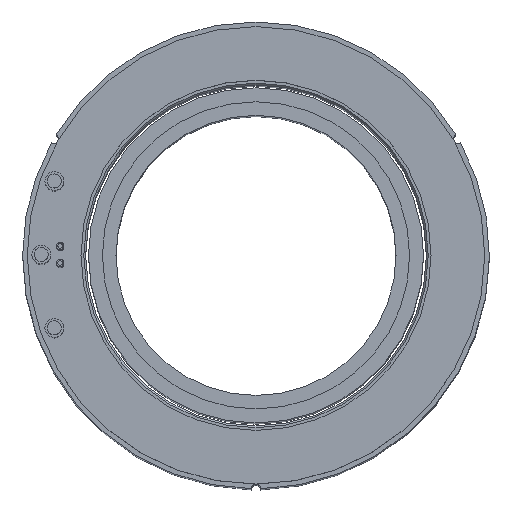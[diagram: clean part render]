
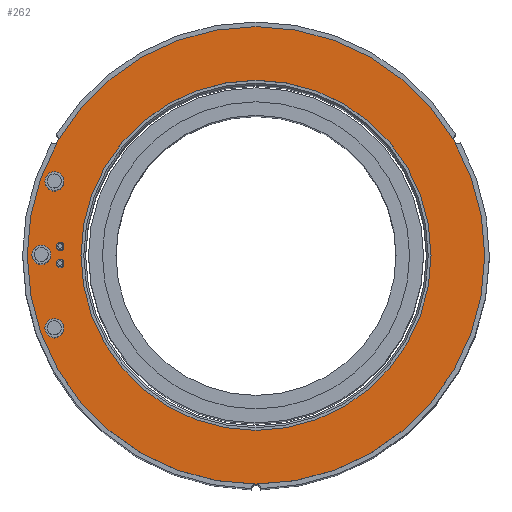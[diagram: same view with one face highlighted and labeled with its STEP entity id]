
A CAD part, top view. The second image highlights one B-rep face of the part: STEP entity #262.
In plain terms, the highlighted planar face has unit normal (0, 0, 1).
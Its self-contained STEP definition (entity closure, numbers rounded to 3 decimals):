
#4 = CARTESIAN_POINT ( 'NONE',  ( -20.98, 0.916, 81. ) ) ;
#5 = PLANE ( 'NONE',  #200 ) ;
#8 = EDGE_CURVE ( 'NONE', #2097, #510, #1329, .T. ) ;
#39 = ORIENTED_EDGE ( 'NONE', *, *, #816, .F. ) ;
#49 = EDGE_LOOP ( 'NONE', ( #363, #719 ) ) ;
#56 = DIRECTION ( 'NONE',  ( 0., 0., 1. ) ) ;
#64 = DIRECTION ( 'NONE',  ( 0., 0., 1. ) ) ;
#65 = ORIENTED_EDGE ( 'NONE', *, *, #8, .F. ) ;
#91 = CARTESIAN_POINT ( 'NONE',  ( 18.75, 0., 81. ) ) ;
#92 = AXIS2_PLACEMENT_3D ( 'NONE', #1311, #1145, #1803 ) ;
#99 = VERTEX_POINT ( 'NONE', #1786 ) ;
#104 = CARTESIAN_POINT ( 'NONE',  ( -24., 0., 81. ) ) ;
#140 = CARTESIAN_POINT ( 'NONE',  ( 24.5, 0., 81. ) ) ;
#141 = ORIENTED_EDGE ( 'NONE', *, *, #1646, .F. ) ;
#155 = FACE_BOUND ( 'NONE', #1528, .T. ) ;
#160 = CIRCLE ( 'NONE', #975, 1. ) ;
#164 = CIRCLE ( 'NONE', #92, 1. ) ;
#200 = AXIS2_PLACEMENT_3D ( 'NONE', #1665, #810, #361 ) ;
#209 = VERTEX_POINT ( 'NONE', #1813 ) ;
#211 = EDGE_CURVE ( 'NONE', #509, #1922, #1921, .T. ) ;
#262 = ADVANCED_FACE ( 'NONE', ( #1988, #1961, #515, #1165, #155, #1998, #1483 ), #5, .T. ) ;
#269 = DIRECTION ( 'NONE',  ( 0., 0., 1. ) ) ;
#295 = DIRECTION ( 'NONE',  ( 1., 0., 0. ) ) ;
#303 = AXIS2_PLACEMENT_3D ( 'NONE', #904, #918, #465 ) ;
#318 = ORIENTED_EDGE ( 'NONE', *, *, #211, .F. ) ;
#319 = CARTESIAN_POINT ( 'NONE',  ( -21.38, -0.916, 81. ) ) ;
#322 = CARTESIAN_POINT ( 'NONE',  ( 0., 0., 81. ) ) ;
#331 = AXIS2_PLACEMENT_3D ( 'NONE', #642, #1986, #1298 ) ;
#361 = DIRECTION ( 'NONE',  ( 1., 0., 0. ) ) ;
#363 = ORIENTED_EDGE ( 'NONE', *, *, #1437, .F. ) ;
#366 = CIRCLE ( 'NONE', #1085, 18.75 ) ;
#367 = ORIENTED_EDGE ( 'NONE', *, *, #1597, .T. ) ;
#375 = DIRECTION ( 'NONE',  ( 1., 0., 0. ) ) ;
#383 = CIRCLE ( 'NONE', #554, 0.4 ) ;
#384 = CARTESIAN_POINT ( 'NONE',  ( -21.613, -7.866, 81. ) ) ;
#390 = DIRECTION ( 'NONE',  ( 1., 0., 0. ) ) ;
#434 = CIRCLE ( 'NONE', #303, 24.5 ) ;
#465 = DIRECTION ( 'NONE',  ( 1., 0., 0. ) ) ;
#478 = DIRECTION ( 'NONE',  ( 1., 0., 0. ) ) ;
#509 = VERTEX_POINT ( 'NONE', #91 ) ;
#510 = VERTEX_POINT ( 'NONE', #1455 ) ;
#515 = FACE_BOUND ( 'NONE', #1973, .T. ) ;
#552 = VERTEX_POINT ( 'NONE', #104 ) ;
#554 = AXIS2_PLACEMENT_3D ( 'NONE', #4, #1173, #2135 ) ;
#575 = DIRECTION ( 'NONE',  ( 1., 0., 0. ) ) ;
#627 = CIRCLE ( 'NONE', #889, 1. ) ;
#638 = CARTESIAN_POINT ( 'NONE',  ( 0., 0., 81. ) ) ;
#642 = CARTESIAN_POINT ( 'NONE',  ( -20.98, -0.916, 81. ) ) ;
#650 = ORIENTED_EDGE ( 'NONE', *, *, #1313, .F. ) ;
#662 = CARTESIAN_POINT ( 'NONE',  ( -22.613, -7.866, 81. ) ) ;
#680 = EDGE_CURVE ( 'NONE', #99, #1418, #383, .T. ) ;
#719 = ORIENTED_EDGE ( 'NONE', *, *, #1038, .F. ) ;
#720 = VERTEX_POINT ( 'NONE', #1512 ) ;
#739 = CIRCLE ( 'NONE', #1840, 1. ) ;
#777 = AXIS2_PLACEMENT_3D ( 'NONE', #1862, #64, #390 ) ;
#780 = ORIENTED_EDGE ( 'NONE', *, *, #1821, .F. ) ;
#795 = EDGE_CURVE ( 'NONE', #1418, #99, #1859, .T. ) ;
#800 = EDGE_LOOP ( 'NONE', ( #2132, #2083 ) ) ;
#810 = DIRECTION ( 'NONE',  ( 0., 0., 1. ) ) ;
#816 = EDGE_CURVE ( 'NONE', #1478, #209, #627, .T. ) ;
#831 = CARTESIAN_POINT ( 'NONE',  ( -21.613, 7.866, 81. ) ) ;
#835 = EDGE_LOOP ( 'NONE', ( #650, #318 ) ) ;
#883 = CARTESIAN_POINT ( 'NONE',  ( -18.75, 0., 81. ) ) ;
#889 = AXIS2_PLACEMENT_3D ( 'NONE', #384, #56, #575 ) ;
#893 = ORIENTED_EDGE ( 'NONE', *, *, #1709, .T. ) ;
#896 = DIRECTION ( 'NONE',  ( 1., 0., 0. ) ) ;
#904 = CARTESIAN_POINT ( 'NONE',  ( 0., 0., 81. ) ) ;
#907 = AXIS2_PLACEMENT_3D ( 'NONE', #638, #1787, #295 ) ;
#918 = DIRECTION ( 'NONE',  ( 0., 0., 1. ) ) ;
#972 = CIRCLE ( 'NONE', #1805, 0.4 ) ;
#975 = AXIS2_PLACEMENT_3D ( 'NONE', #831, #1192, #1999 ) ;
#981 = AXIS2_PLACEMENT_3D ( 'NONE', #322, #998, #1337 ) ;
#986 = CARTESIAN_POINT ( 'NONE',  ( -24.5, 0., 81. ) ) ;
#998 = DIRECTION ( 'NONE',  ( 0., 0., 1. ) ) ;
#1000 = CARTESIAN_POINT ( 'NONE',  ( -20.58, -0.916, 81. ) ) ;
#1005 = DIRECTION ( 'NONE',  ( 1., 0., 0. ) ) ;
#1038 = EDGE_CURVE ( 'NONE', #1835, #1468, #972, .T. ) ;
#1056 = CARTESIAN_POINT ( 'NONE',  ( -20.613, 7.866, 81. ) ) ;
#1066 = CARTESIAN_POINT ( 'NONE',  ( -20.98, -0.916, 81. ) ) ;
#1085 = AXIS2_PLACEMENT_3D ( 'NONE', #2087, #269, #1582 ) ;
#1145 = DIRECTION ( 'NONE',  ( 0., 0., 1. ) ) ;
#1165 = FACE_BOUND ( 'NONE', #800, .T. ) ;
#1173 = DIRECTION ( 'NONE',  ( 0., 0., 1. ) ) ;
#1190 = CIRCLE ( 'NONE', #331, 0.4 ) ;
#1192 = DIRECTION ( 'NONE',  ( 0., 0., 1. ) ) ;
#1199 = DIRECTION ( 'NONE',  ( 0., 0., 1. ) ) ;
#1201 = CARTESIAN_POINT ( 'NONE',  ( -23., 0., 81. ) ) ;
#1229 = CARTESIAN_POINT ( 'NONE',  ( -20.98, 0.916, 81. ) ) ;
#1252 = EDGE_LOOP ( 'NONE', ( #1530, #2002 ) ) ;
#1298 = DIRECTION ( 'NONE',  ( 1., 0., 0. ) ) ;
#1310 = AXIS2_PLACEMENT_3D ( 'NONE', #1229, #1199, #1005 ) ;
#1311 = CARTESIAN_POINT ( 'NONE',  ( -23., 0., 81. ) ) ;
#1313 = EDGE_CURVE ( 'NONE', #1922, #509, #366, .T. ) ;
#1326 = AXIS2_PLACEMENT_3D ( 'NONE', #1201, #1831, #375 ) ;
#1329 = CIRCLE ( 'NONE', #777, 1. ) ;
#1337 = DIRECTION ( 'NONE',  ( 1., 0., 0. ) ) ;
#1418 = VERTEX_POINT ( 'NONE', #1799 ) ;
#1425 = VERTEX_POINT ( 'NONE', #986 ) ;
#1434 = CIRCLE ( 'NONE', #1326, 1. ) ;
#1437 = EDGE_CURVE ( 'NONE', #1468, #1835, #1190, .T. ) ;
#1455 = CARTESIAN_POINT ( 'NONE',  ( -22.613, 7.866, 81. ) ) ;
#1468 = VERTEX_POINT ( 'NONE', #319 ) ;
#1478 = VERTEX_POINT ( 'NONE', #662 ) ;
#1483 = FACE_BOUND ( 'NONE', #835, .T. ) ;
#1512 = CARTESIAN_POINT ( 'NONE',  ( -22., 0., 81. ) ) ;
#1528 = EDGE_LOOP ( 'NONE', ( #780, #65 ) ) ;
#1530 = ORIENTED_EDGE ( 'NONE', *, *, #680, .F. ) ;
#1569 = EDGE_LOOP ( 'NONE', ( #893, #367 ) ) ;
#1582 = DIRECTION ( 'NONE',  ( 1., 0., 0. ) ) ;
#1597 = EDGE_CURVE ( 'NONE', #1724, #1425, #434, .T. ) ;
#1646 = EDGE_CURVE ( 'NONE', #209, #1478, #739, .T. ) ;
#1665 = CARTESIAN_POINT ( 'NONE',  ( 0., 0., 81. ) ) ;
#1709 = EDGE_CURVE ( 'NONE', #1425, #1724, #1779, .T. ) ;
#1724 = VERTEX_POINT ( 'NONE', #140 ) ;
#1726 = DIRECTION ( 'NONE',  ( 0., 0., 1. ) ) ;
#1779 = CIRCLE ( 'NONE', #907, 24.5 ) ;
#1786 = CARTESIAN_POINT ( 'NONE',  ( -21.38, 0.916, 81. ) ) ;
#1787 = DIRECTION ( 'NONE',  ( 0., 0., 1. ) ) ;
#1799 = CARTESIAN_POINT ( 'NONE',  ( -20.58, 0.916, 81. ) ) ;
#1803 = DIRECTION ( 'NONE',  ( 1., 0., 0. ) ) ;
#1805 = AXIS2_PLACEMENT_3D ( 'NONE', #1066, #1726, #896 ) ;
#1813 = CARTESIAN_POINT ( 'NONE',  ( -20.613, -7.866, 81. ) ) ;
#1821 = EDGE_CURVE ( 'NONE', #510, #2097, #160, .T. ) ;
#1831 = DIRECTION ( 'NONE',  ( 0., 0., 1. ) ) ;
#1835 = VERTEX_POINT ( 'NONE', #1000 ) ;
#1840 = AXIS2_PLACEMENT_3D ( 'NONE', #1963, #2094, #478 ) ;
#1859 = CIRCLE ( 'NONE', #1310, 0.4 ) ;
#1862 = CARTESIAN_POINT ( 'NONE',  ( -21.613, 7.866, 81. ) ) ;
#1870 = EDGE_CURVE ( 'NONE', #552, #720, #164, .T. ) ;
#1921 = CIRCLE ( 'NONE', #981, 18.75 ) ;
#1922 = VERTEX_POINT ( 'NONE', #883 ) ;
#1961 = FACE_BOUND ( 'NONE', #1252, .T. ) ;
#1963 = CARTESIAN_POINT ( 'NONE',  ( -21.613, -7.866, 81. ) ) ;
#1973 = EDGE_LOOP ( 'NONE', ( #39, #141 ) ) ;
#1986 = DIRECTION ( 'NONE',  ( 0., 0., 1. ) ) ;
#1988 = FACE_BOUND ( 'NONE', #49, .T. ) ;
#1998 = FACE_OUTER_BOUND ( 'NONE', #1569, .T. ) ;
#1999 = DIRECTION ( 'NONE',  ( 1., 0., 0. ) ) ;
#2002 = ORIENTED_EDGE ( 'NONE', *, *, #795, .F. ) ;
#2083 = ORIENTED_EDGE ( 'NONE', *, *, #2101, .F. ) ;
#2087 = CARTESIAN_POINT ( 'NONE',  ( 0., 0., 81. ) ) ;
#2094 = DIRECTION ( 'NONE',  ( 0., 0., 1. ) ) ;
#2097 = VERTEX_POINT ( 'NONE', #1056 ) ;
#2101 = EDGE_CURVE ( 'NONE', #720, #552, #1434, .T. ) ;
#2132 = ORIENTED_EDGE ( 'NONE', *, *, #1870, .F. ) ;
#2135 = DIRECTION ( 'NONE',  ( 1., 0., 0. ) ) ;
